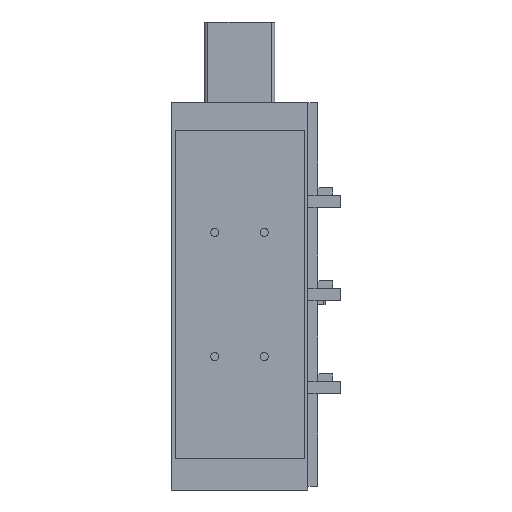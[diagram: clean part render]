
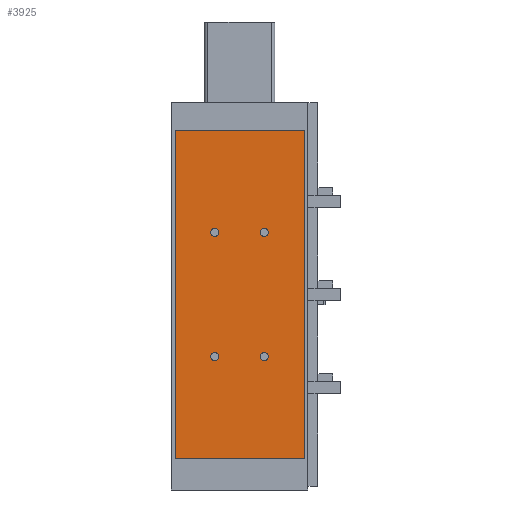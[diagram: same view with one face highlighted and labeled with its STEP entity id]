
A CAD part, front view. The second image highlights one B-rep face of the part: STEP entity #3925.
In plain terms, the highlighted planar face has unit normal (0, -1, 0).
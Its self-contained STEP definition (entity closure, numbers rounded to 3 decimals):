
#184=CARTESIAN_POINT('',(16.75,0.,207.5));
#185=VERTEX_POINT('',#184);
#186=CARTESIAN_POINT('',(20.,0.0,207.5));
#187=DIRECTION('',(0.0,1.0,0.0));
#188=DIRECTION('',(1.0,0.0,0.0));
#189=AXIS2_PLACEMENT_3D('',#186,#187,#188);
#190=CIRCLE('',#189,3.25);
#191=EDGE_CURVE('',#185,#185,#190,.T.);
#261=CARTESIAN_POINT('',(-23.25,0.,207.5));
#262=VERTEX_POINT('',#261);
#263=CARTESIAN_POINT('',(-20.,0.0,207.5));
#264=DIRECTION('',(0.0,1.0,0.0));
#265=DIRECTION('',(1.0,0.0,0.0));
#266=AXIS2_PLACEMENT_3D('',#263,#264,#265);
#267=CIRCLE('',#266,3.25);
#268=EDGE_CURVE('',#262,#262,#267,.T.);
#338=CARTESIAN_POINT('',(16.75,0.,107.5));
#339=VERTEX_POINT('',#338);
#340=CARTESIAN_POINT('',(20.,0.0,107.5));
#341=DIRECTION('',(0.0,1.0,0.0));
#342=DIRECTION('',(1.0,0.0,0.0));
#343=AXIS2_PLACEMENT_3D('',#340,#341,#342);
#344=CIRCLE('',#343,3.25);
#345=EDGE_CURVE('',#339,#339,#344,.T.);
#415=CARTESIAN_POINT('',(-23.25,0.,107.5));
#416=VERTEX_POINT('',#415);
#417=CARTESIAN_POINT('',(-20.,0.0,107.5));
#418=DIRECTION('',(0.0,1.0,0.0));
#419=DIRECTION('',(1.0,0.0,0.0));
#420=AXIS2_PLACEMENT_3D('',#417,#418,#419);
#421=CIRCLE('',#420,3.25);
#422=EDGE_CURVE('',#416,#416,#421,.T.);
#3834=CARTESIAN_POINT('',(52.,0.,25.));
#3835=VERTEX_POINT('',#3834);
#3842=CARTESIAN_POINT('',(-52.0,0.,25.));
#3843=VERTEX_POINT('',#3842);
#3844=CARTESIAN_POINT('',(-52.0,0.,25.));
#3845=DIRECTION('',(1.0,0.0,0.0));
#3846=VECTOR('',#3845,104.0);
#3847=LINE('',#3844,#3846);
#3848=EDGE_CURVE('',#3843,#3835,#3847,.T.);
#3865=CARTESIAN_POINT('',(-52.,0.,290.));
#3866=VERTEX_POINT('',#3865);
#3867=CARTESIAN_POINT('',(-52.0,0.,25.));
#3868=DIRECTION('',(0.0,0.0,1.0));
#3869=VECTOR('',#3868,265.);
#3870=LINE('',#3867,#3869);
#3871=EDGE_CURVE('',#3843,#3866,#3870,.T.);
#3890=CARTESIAN_POINT('',(52.0,0.,0.0));
#3891=DIRECTION('',(0.0,-1.0,0.0));
#3892=DIRECTION('',(0.0,0.0,-1.0));
#3893=AXIS2_PLACEMENT_3D('',#3890,#3891,#3892);
#3894=PLANE('',#3893);
#3895=ORIENTED_EDGE('',*,*,#3848,.T.);
#3896=CARTESIAN_POINT('',(52.,0.,290.));
#3897=VERTEX_POINT('',#3896);
#3898=CARTESIAN_POINT('',(52.,0.,25.));
#3899=DIRECTION('',(0.0,0.0,1.0));
#3900=VECTOR('',#3899,265.);
#3901=LINE('',#3898,#3900);
#3902=EDGE_CURVE('',#3835,#3897,#3901,.T.);
#3903=ORIENTED_EDGE('',*,*,#3902,.T.);
#3904=CARTESIAN_POINT('',(52.,0.,290.));
#3905=DIRECTION('',(-1.0,0.0,0.0));
#3906=VECTOR('',#3905,104.);
#3907=LINE('',#3904,#3906);
#3908=EDGE_CURVE('',#3897,#3866,#3907,.T.);
#3909=ORIENTED_EDGE('',*,*,#3908,.T.);
#3910=ORIENTED_EDGE('',*,*,#3871,.F.);
#3911=EDGE_LOOP('',(#3895,#3903,#3909,#3910));
#3912=FACE_OUTER_BOUND('',#3911,.T.);
#3913=ORIENTED_EDGE('',*,*,#191,.T.);
#3914=EDGE_LOOP('',(#3913));
#3915=FACE_BOUND('',#3914,.T.);
#3916=ORIENTED_EDGE('',*,*,#268,.T.);
#3917=EDGE_LOOP('',(#3916));
#3918=FACE_BOUND('',#3917,.T.);
#3919=ORIENTED_EDGE('',*,*,#345,.T.);
#3920=EDGE_LOOP('',(#3919));
#3921=FACE_BOUND('',#3920,.T.);
#3922=ORIENTED_EDGE('',*,*,#422,.T.);
#3923=EDGE_LOOP('',(#3922));
#3924=FACE_BOUND('',#3923,.T.);
#3925=ADVANCED_FACE('',(#3912,#3915,#3918,#3921,#3924),#3894,.T.);
